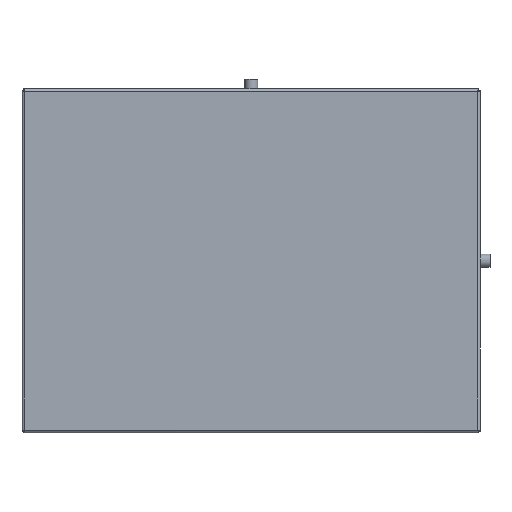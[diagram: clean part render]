
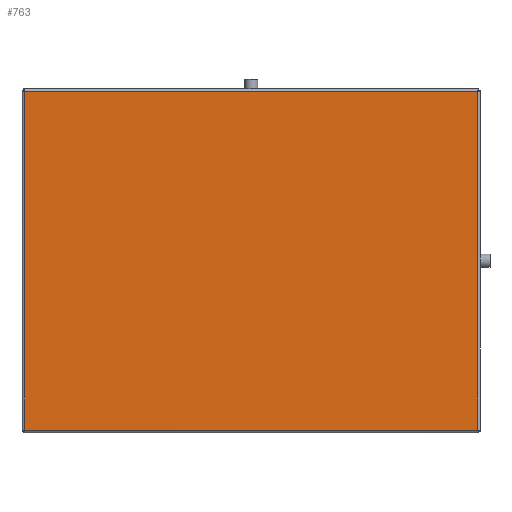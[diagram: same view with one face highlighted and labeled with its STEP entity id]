
A CAD part, front view. The second image highlights one B-rep face of the part: STEP entity #763.
In plain terms, the highlighted planar face has unit normal (0, -1, 0).
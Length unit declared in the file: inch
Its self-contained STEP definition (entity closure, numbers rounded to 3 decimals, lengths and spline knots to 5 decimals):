
#7 = CARTESIAN_POINT ( 'NONE',  ( -37.32624, -1.51929, 20.71973 ) ) ;
#16 = DIRECTION ( 'NONE',  ( 1., 0., 0. ) ) ;
#17 = DIRECTION ( 'NONE',  ( 0., 0., -1. ) ) ;
#41 = CARTESIAN_POINT ( 'NONE',  ( -37.44789, -1.51929, -14.84871 ) ) ;
#104 = ORIENTED_EDGE ( 'NONE', *, *, #3990, .T. ) ;
#271 = EDGE_LOOP ( 'NONE', ( #6795, #4253, #104, #5971 ) ) ;
#324 = CARTESIAN_POINT ( 'NONE',  ( 10.12056, -1.51929, 20.59809 ) ) ;
#763 = ADVANCED_FACE ( 'NONE', ( #2569 ), #2343, .T. ) ;
#1395 = CARTESIAN_POINT ( 'NONE',  ( 10.12056, -1.51929, -14.84871 ) ) ;
#2264 = DIRECTION ( 'NONE',  ( 0., 0., -1. ) ) ;
#2272 = DIRECTION ( 'NONE',  ( 0., -1., 0. ) ) ;
#2323 = CARTESIAN_POINT ( 'NONE',  ( -37.60284, -1.51929, -15.12531 ) ) ;
#2343 = PLANE ( 'NONE',  #3817 ) ;
#2482 = VECTOR ( 'NONE', #17, 39.37008 ) ;
#2569 = FACE_OUTER_BOUND ( 'NONE', #271, .T. ) ;
#2872 = LINE ( 'NONE', #41, #5785 ) ;
#3817 = AXIS2_PLACEMENT_3D ( 'NONE', #2323, #2272, #2264 ) ;
#3982 = EDGE_CURVE ( 'NONE', #5516, #4802, #2872, .T. ) ;
#3990 = EDGE_CURVE ( 'NONE', #6828, #5516, #4361, .T. ) ;
#3993 = EDGE_CURVE ( 'NONE', #4907, #6828, #4168, .T. ) ;
#4023 = EDGE_CURVE ( 'NONE', #4802, #4907, #6531, .T. ) ;
#4168 = LINE ( 'NONE', #7158, #5632 ) ;
#4253 = ORIENTED_EDGE ( 'NONE', *, *, #3993, .T. ) ;
#4361 = LINE ( 'NONE', #7, #2482 ) ;
#4802 = VERTEX_POINT ( 'NONE', #1395 ) ;
#4907 = VERTEX_POINT ( 'NONE', #324 ) ;
#5065 = VECTOR ( 'NONE', #6758, 39.37008 ) ;
#5283 = CARTESIAN_POINT ( 'NONE',  ( -37.32624, -1.51929, 20.59809 ) ) ;
#5516 = VERTEX_POINT ( 'NONE', #6064 ) ;
#5632 = VECTOR ( 'NONE', #6983, 39.37008 ) ;
#5785 = VECTOR ( 'NONE', #16, 39.37008 ) ;
#5971 = ORIENTED_EDGE ( 'NONE', *, *, #3982, .T. ) ;
#6064 = CARTESIAN_POINT ( 'NONE',  ( -37.32624, -1.51929, -14.84871 ) ) ;
#6531 = LINE ( 'NONE', #6840, #5065 ) ;
#6758 = DIRECTION ( 'NONE',  ( 0., 0., 1. ) ) ;
#6795 = ORIENTED_EDGE ( 'NONE', *, *, #4023, .T. ) ;
#6828 = VERTEX_POINT ( 'NONE', #5283 ) ;
#6840 = CARTESIAN_POINT ( 'NONE',  ( 10.12056, -1.51929, -14.97036 ) ) ;
#6983 = DIRECTION ( 'NONE',  ( -1., 0., 0. ) ) ;
#7158 = CARTESIAN_POINT ( 'NONE',  ( 10.2422, -1.51929, 20.59809 ) ) ;
